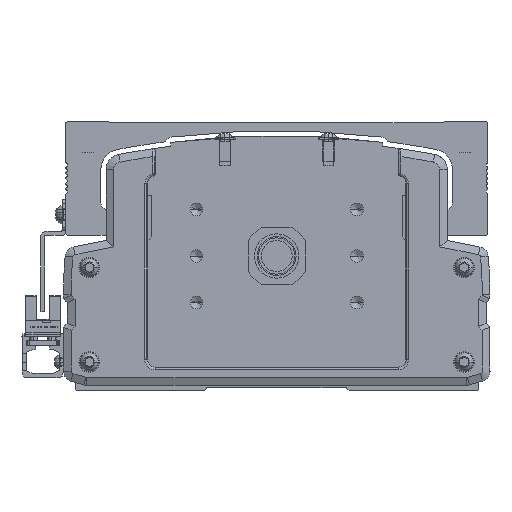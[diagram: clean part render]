
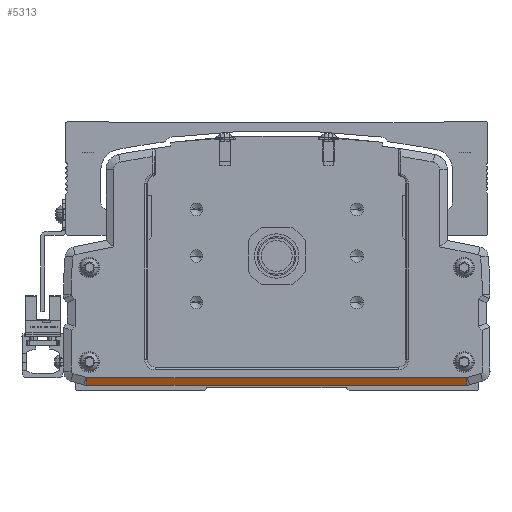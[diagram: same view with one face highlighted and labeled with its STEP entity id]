
A CAD part, front view. The second image highlights one B-rep face of the part: STEP entity #5313.
In plain terms, the highlighted planar face has unit normal (0, -0.894, -0.447).
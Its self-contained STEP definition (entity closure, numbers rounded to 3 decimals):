
#5313=ADVANCED_FACE('',(#12085),#12086,.F.);
#12085=FACE_OUTER_BOUND('',#21187,.T.);
#12086=PLANE('',#21188);
#21187=EDGE_LOOP('',(#38148,#38149,#38150,#38151));
#21188=AXIS2_PLACEMENT_3D('',#38152,#38153,#38154);
#38148=ORIENTED_EDGE('',*,*,#56717,.T.);
#38149=ORIENTED_EDGE('',*,*,#54765,.F.);
#38150=ORIENTED_EDGE('',*,*,#57928,.F.);
#38151=ORIENTED_EDGE('',*,*,#54494,.F.);
#38152=CARTESIAN_POINT('',(-599.999,-486.278,-50.001));
#38153=DIRECTION('',(0.,0.894,0.447));
#38154=DIRECTION('',(0.,0.447,-0.894));
#54494=EDGE_CURVE('',#66006,#66008,#66009,.T.);
#54765=EDGE_CURVE('',#66465,#66194,#66467,.T.);
#56717=EDGE_CURVE('',#66006,#66194,#69586,.T.);
#57928=EDGE_CURVE('',#66008,#66465,#71324,.T.);
#66006=VERTEX_POINT('',#82118);
#66008=VERTEX_POINT('',#82120);
#66009=LINE('',#82121,#82122);
#66194=VERTEX_POINT('',#82424);
#66465=VERTEX_POINT('',#82801);
#66467=LINE('',#82804,#82805);
#69586=LINE('',#87416,#87417);
#71324=LINE('',#90219,#90220);
#82118=CARTESIAN_POINT('',(-673.423,-487.778,-47.001));
#82120=CARTESIAN_POINT('',(-526.575,-487.778,-47.001));
#82121=CARTESIAN_POINT('',(-600.015,-487.778,-47.001));
#82122=VECTOR('',#100777,1000.0);
#82424=CARTESIAN_POINT('',(-673.423,-486.278,-50.001));
#82801=CARTESIAN_POINT('',(-526.575,-486.278,-50.001));
#82804=CARTESIAN_POINT('',(-599.999,-486.278,-50.001));
#82805=VECTOR('',#101150,1000.0);
#87416=CARTESIAN_POINT('',(-673.423,-487.778,-47.001));
#87417=VECTOR('',#103685,1000.0);
#90219=CARTESIAN_POINT('',(-526.575,-487.778,-47.001));
#90220=VECTOR('',#105052,1000.0);
#100777=DIRECTION('',(1.0,0.,0.));
#101150=DIRECTION('',(-1.0,0.,0.));
#103685=DIRECTION('',(0.,0.447,-0.894));
#105052=DIRECTION('',(0.,0.447,-0.894));
